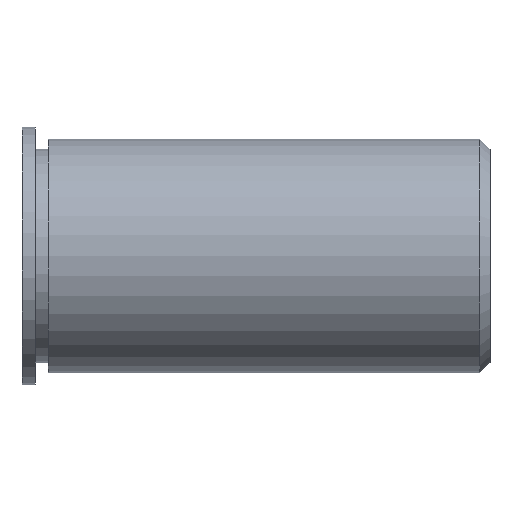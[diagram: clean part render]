
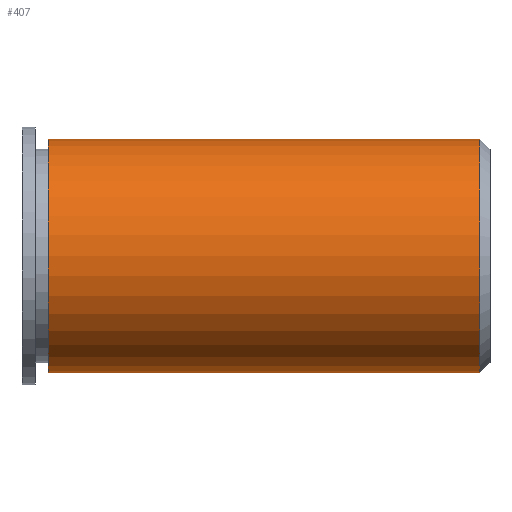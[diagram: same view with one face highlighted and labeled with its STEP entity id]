
A CAD part, top view. The second image highlights one B-rep face of the part: STEP entity #407.
In plain terms, the highlighted cylindrical face has radius 2.25 mm (diameter 4.5 mm), a partial arc.
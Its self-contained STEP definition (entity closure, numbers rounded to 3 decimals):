
#13 = ORIENTED_EDGE ( 'NONE', *, *, #481, .T. ) ;
#74 = CYLINDRICAL_SURFACE ( 'NONE', #353, 2.25 ) ;
#98 = DIRECTION ( 'NONE',  ( -1., 0., 0. ) ) ;
#106 = LINE ( 'NONE', #291, #264 ) ;
#128 = CARTESIAN_POINT ( 'NONE',  ( 69.722, 2.25, 0. ) ) ;
#160 = CARTESIAN_POINT ( 'NONE',  ( 78.014, 0., 0. ) ) ;
#177 = VECTOR ( 'NONE', #98, 1000. ) ;
#187 = CARTESIAN_POINT ( 'NONE',  ( 78.014, -2.25, 0. ) ) ;
#196 = CARTESIAN_POINT ( 'NONE',  ( 78.014, 2.25, 0. ) ) ;
#212 = EDGE_CURVE ( 'NONE', #478, #536, #485, .T. ) ;
#222 = AXIS2_PLACEMENT_3D ( 'NONE', #160, #309, #436 ) ;
#227 = VERTEX_POINT ( 'NONE', #196 ) ;
#233 = CARTESIAN_POINT ( 'NONE',  ( 69.722, -2.25, 0. ) ) ;
#236 = CARTESIAN_POINT ( 'NONE',  ( -67.825, 0., 0. ) ) ;
#237 = ORIENTED_EDGE ( 'NONE', *, *, #319, .F. ) ;
#241 = ORIENTED_EDGE ( 'NONE', *, *, #212, .F. ) ;
#254 = VERTEX_POINT ( 'NONE', #128 ) ;
#264 = VECTOR ( 'NONE', #314, 1000. ) ;
#273 = EDGE_LOOP ( 'NONE', ( #335, #13, #237, #241 ) ) ;
#291 = CARTESIAN_POINT ( 'NONE',  ( -67.825, 2.25, 0. ) ) ;
#300 = DIRECTION ( 'NONE',  ( 0., -1., 0. ) ) ;
#309 = DIRECTION ( 'NONE',  ( -1., 0., 0. ) ) ;
#314 = DIRECTION ( 'NONE',  ( -1., 0., 0. ) ) ;
#319 = EDGE_CURVE ( 'NONE', #536, #254, #411, .T. ) ;
#335 = ORIENTED_EDGE ( 'NONE', *, *, #376, .T. ) ;
#353 = AXIS2_PLACEMENT_3D ( 'NONE', #236, #549, #300 ) ;
#354 = FACE_OUTER_BOUND ( 'NONE', #273, .T. ) ;
#375 = DIRECTION ( 'NONE',  ( 0., -1., 0. ) ) ;
#376 = EDGE_CURVE ( 'NONE', #478, #227, #442, .T. ) ;
#407 = ADVANCED_FACE ( 'NONE', ( #354 ), #74, .T. ) ;
#411 = CIRCLE ( 'NONE', #434, 2.25 ) ;
#434 = AXIS2_PLACEMENT_3D ( 'NONE', #440, #539, #375 ) ;
#436 = DIRECTION ( 'NONE',  ( 0., -1., 0. ) ) ;
#440 = CARTESIAN_POINT ( 'NONE',  ( 69.722, 0., 0. ) ) ;
#442 = CIRCLE ( 'NONE', #222, 2.25 ) ;
#478 = VERTEX_POINT ( 'NONE', #187 ) ;
#481 = EDGE_CURVE ( 'NONE', #227, #254, #106, .T. ) ;
#485 = LINE ( 'NONE', #537, #177 ) ;
#536 = VERTEX_POINT ( 'NONE', #233 ) ;
#537 = CARTESIAN_POINT ( 'NONE',  ( -67.825, -2.25, 0. ) ) ;
#539 = DIRECTION ( 'NONE',  ( -1., 0., 0. ) ) ;
#549 = DIRECTION ( 'NONE',  ( -1., 0., 0. ) ) ;
